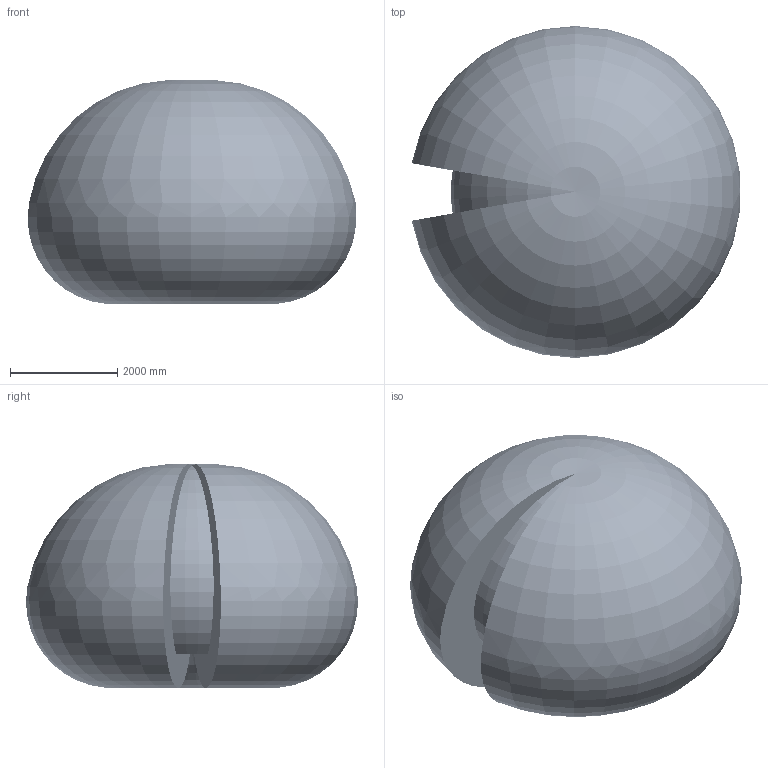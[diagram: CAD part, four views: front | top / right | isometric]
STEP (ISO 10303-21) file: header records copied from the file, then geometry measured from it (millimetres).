
FILE_DESCRIPTION (( 'STEP AP214' ), '1' );
FILE_NAME ('IRB6730-LID-SW_190kg-310_OC_01_ASM_CAD.step', '2026-05-26T09:14:27', ( '' ), ( '' ), 'SwSTEP 2.0', 'SolidWorks 2024', '' );
FILE_SCHEMA (( 'AUTOMOTIVE_DESIGN' ));
Length unit declared in the file: millimetre
Products named in the file (20): IRB6730-LID_190kg-310_OC_00_ROD_CAD; IRB6730-LID_190kg-310_OC_00_LINK01_CAD; IRB6730-LID_190kg-310_OC_00_LINK05_CABLE; IRB6730-LID_190kg-310_OC_00_CYL_CAD; IRB6730-LID_190kg-310_OC_00_LINK02_CAD; IRB6730-LID-SW_190kg-310_OC_00_LINK03a_CABLE; IRB6730-LID_190kg-310_OC_00_LINK04_CAD; IRB6730-LID_190kg-310_OC_00_LINK03m_CABLE; IRB6730-LID-SW_190kg-310_OC_01_ASM_CAD; IRB6730-LID-SW_190kg-310_OC_00_LINK01_CABLE; IRB6730-LID_190kg-310_OC_00_LINK02m_CABLE; IRB6730-LID_190kg-310_OC_00_Working-space; IRB6730-LID_190kg-310_OC_00_BASE_CAD; IRB6730-LID_190kg-310_OC_00_LINK03_CAD; IRB6730-LID_190kg-310_OC_00_LINK06_CABLE; IRB6730-LID-SW_190kg-310_OC_00_LINK03b_CABLE; IRB6730-LID_190kg-310_OC_00_LINK04_CABLE; IRB6730-LID_190kg-310_OC_00_LINK01m_CABLE; IRB6730-LID-SW_190kg-310_OC_00_LINK02_CABLE; IRB6730-LID_190kg-310_OC_01_LINK05_CAD
Assembly tree (19 placements, depth 2):
  IRB6730-LID-SW_190kg-310_OC_01_ASM_CAD
    IRB6730-LID_190kg-310_OC_00_BASE_CAD
    IRB6730-LID_190kg-310_OC_00_CYL_CAD
    IRB6730-LID_190kg-310_OC_00_LINK01_CAD
    IRB6730-LID_190kg-310_OC_00_LINK02_CAD
    IRB6730-LID_190kg-310_OC_00_LINK03_CAD
    IRB6730-LID_190kg-310_OC_00_LINK04_CAD
    IRB6730-LID_190kg-310_OC_00_ROD_CAD
    IRB6730-LID_190kg-310_OC_01_LINK05_CAD
    IRB6730-LID_190kg-310_OC_00_LINK06_CABLE
    IRB6730-LID-SW_190kg-310_OC_00_LINK01_CABLE
    IRB6730-LID-SW_190kg-310_OC_00_LINK02_CABLE
    IRB6730-LID-SW_190kg-310_OC_00_LINK03a_CABLE
    IRB6730-LID-SW_190kg-310_OC_00_LINK03b_CABLE
    IRB6730-LID_190kg-310_OC_00_LINK05_CABLE
    IRB6730-LID_190kg-310_OC_00_LINK04_CABLE
    IRB6730-LID_190kg-310_OC_00_LINK01m_CABLE
    IRB6730-LID_190kg-310_OC_00_LINK02m_CABLE
    IRB6730-LID_190kg-310_OC_00_LINK03m_CABLE
    IRB6730-LID_190kg-310_OC_00_Working-space
Bounding box: 6130.35 x 6194.37 x 4169.03 mm (x, y, z)
Volume: 81224372326 mm3; surface area: 144539164.5 mm2
Topology: 20 solids, 48 shells, 10420 faces, 26629 edges, 16916 vertices
Faces by surface type: plane 4909, cylinder 2717, cone 1412, bspline 892, torus 439, sphere 51
Entity records: 570915 total; most frequent: CARTESIAN_POINT 214141, ORIENTED_EDGE 52974, DIRECTION 47703, EDGE_CURVE 26487, AXIS2_PLACEMENT_3D 17443, VERTEX_POINT 16916, LINE 12817, VECTOR 12817
